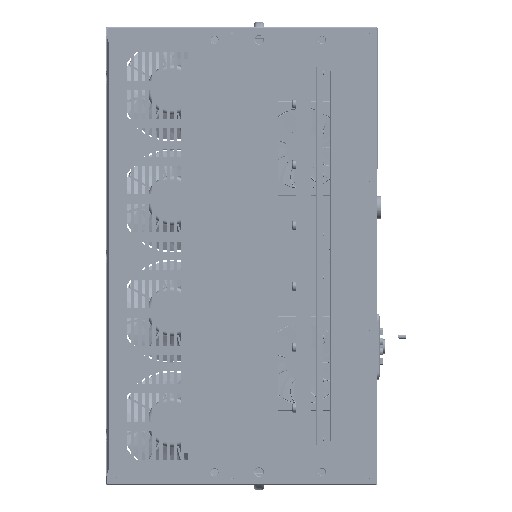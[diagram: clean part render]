
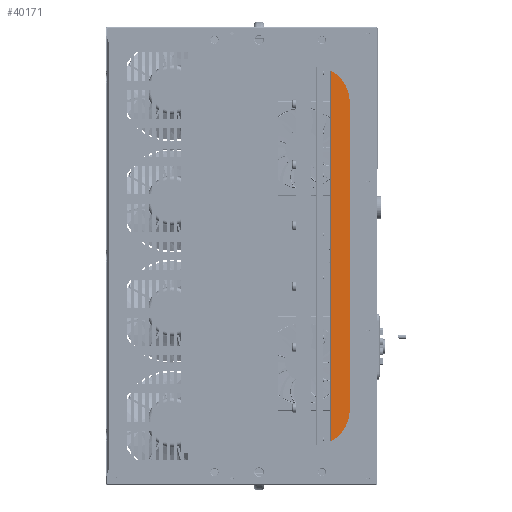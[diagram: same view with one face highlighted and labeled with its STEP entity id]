
A CAD part, front view. The second image highlights one B-rep face of the part: STEP entity #40171.
In plain terms, the highlighted planar face has unit normal (0, -1, 0) as drawn and (0, 0, -1) by its records, which use the part's own axes.
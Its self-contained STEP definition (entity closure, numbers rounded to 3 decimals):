
#40171=ADVANCED_FACE('',(#91745),#91747,.F.);
#91745=FACE_BOUND('',#91746,.T.);
#91746=EDGE_LOOP('',(#133823,#133824,#133825,#133826));
#91747=PLANE('',#91748);
#91748=AXIS2_PLACEMENT_3D('',#91749,#91750,#91751);
#91749=CARTESIAN_POINT('',(1.75,-300.,-127.5));
#91750=DIRECTION('',(0.,0.,1.));
#91751=DIRECTION('',(1.,0.,0.));
#133823=ORIENTED_EDGE('',*,*,#156773,.F.);
#133824=ORIENTED_EDGE('',*,*,#156666,.T.);
#133825=ORIENTED_EDGE('',*,*,#156772,.T.);
#133826=ORIENTED_EDGE('',*,*,#156774,.T.);
#156666=EDGE_CURVE('',#180845,#180842,#180846,.T.);
#156772=EDGE_CURVE('',#180842,#181038,#181041,.T.);
#156773=EDGE_CURVE('',#180845,#181042,#181043,.T.);
#156774=EDGE_CURVE('',#181038,#181042,#181044,.T.);
#180842=VERTEX_POINT('',#242202);
#180845=VERTEX_POINT('',#242210);
#180846=LINE('',#242211,#242212);
#181038=VERTEX_POINT('',#242642);
#181041=LINE('',#242650,#242651);
#181042=VERTEX_POINT('',#242653);
#181043=LINE('',#242654,#242655);
#181044=LINE('',#242657,#242658);
#242202=CARTESIAN_POINT('',(1.75,300.,-127.5));
#242210=CARTESIAN_POINT('',(1.75,-300.,-127.5));
#242211=CARTESIAN_POINT('',(1.75,-300.,-127.5));
#242212=VECTOR('',#242213,1.);
#242213=DIRECTION('',(0.,1.,0.));
#242642=CARTESIAN_POINT('',(28.25,300.,-127.5));
#242650=CARTESIAN_POINT('',(1.75,300.,-127.5));
#242651=VECTOR('',#242652,1.);
#242652=DIRECTION('',(1.,0.,0.));
#242653=CARTESIAN_POINT('',(28.25,-300.,-127.5));
#242654=CARTESIAN_POINT('',(1.75,-300.,-127.5));
#242655=VECTOR('',#242656,1.);
#242656=DIRECTION('',(1.,0.,0.));
#242657=CARTESIAN_POINT('',(28.25,300.,-127.5));
#242658=VECTOR('',#242659,1.);
#242659=DIRECTION('',(0.,-1.,0.));
